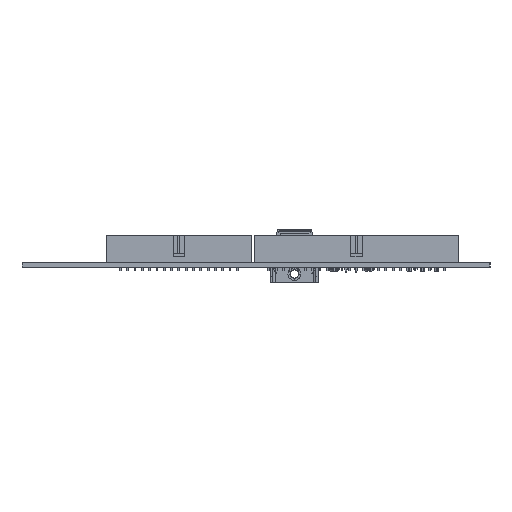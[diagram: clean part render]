
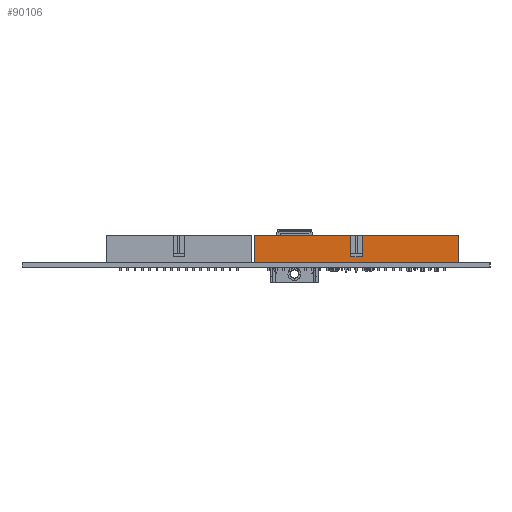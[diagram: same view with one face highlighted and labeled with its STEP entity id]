
A CAD part, left-side view. The second image highlights one B-rep face of the part: STEP entity #90106.
In plain terms, the highlighted planar face has unit normal (-1, 0, 0).
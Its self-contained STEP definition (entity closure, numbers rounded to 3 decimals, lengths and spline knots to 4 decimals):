
#11065=DIRECTION('',(0.,-1.,0.));
#11066=VECTOR('',#11065,2.79);
#11067=CARTESIAN_POINT('',(-2.82,0.02,0.062));
#11068=LINE('',#11067,#11066);
#21872=DIRECTION('',(0.,0.,1.));
#21873=VECTOR('',#21872,0.37);
#21874=CARTESIAN_POINT('',(-2.82,-2.77,0.062));
#21875=LINE('',#21874,#21873);
#21876=DIRECTION('',(0.,0.,1.));
#21877=VECTOR('',#21876,0.37);
#21878=CARTESIAN_POINT('',(-2.82,0.02,0.062));
#21879=LINE('',#21878,#21877);
#21880=DIRECTION('',(0.,0.,-1.));
#21881=VECTOR('',#21880,0.29);
#21882=CARTESIAN_POINT('',(-2.82,-1.295,0.432));
#21883=LINE('',#21882,#21881);
#21884=DIRECTION('',(0.,-1.,0.));
#21885=VECTOR('',#21884,0.16);
#21886=CARTESIAN_POINT('',(-2.82,-1.295,0.142));
#21887=LINE('',#21886,#21885);
#21888=DIRECTION('',(0.,0.,-1.));
#21889=VECTOR('',#21888,0.29);
#21890=CARTESIAN_POINT('',(-2.82,-1.455,0.432));
#21891=LINE('',#21890,#21889);
#21904=DIRECTION('',(0.,-1.,0.));
#21905=VECTOR('',#21904,1.315);
#21906=CARTESIAN_POINT('',(-2.82,0.02,0.432));
#21907=LINE('',#21906,#21905);
#21920=DIRECTION('',(0.,-1.,0.));
#21921=VECTOR('',#21920,1.315);
#21922=CARTESIAN_POINT('',(-2.82,-1.455,0.432));
#21923=LINE('',#21922,#21921);
#54601=CARTESIAN_POINT('',(-2.82,-2.77,0.432));
#54603=VERTEX_POINT('',#54601);
#54607=CARTESIAN_POINT('',(-2.82,0.02,0.432));
#54608=VERTEX_POINT('',#54607);
#54629=CARTESIAN_POINT('',(-2.82,-1.295,0.432));
#54631=VERTEX_POINT('',#54629);
#54633=CARTESIAN_POINT('',(-2.82,-1.455,0.432));
#54635=VERTEX_POINT('',#54633);
#54637=CARTESIAN_POINT('',(-2.82,-1.295,0.142));
#54638=VERTEX_POINT('',#54637);
#54639=CARTESIAN_POINT('',(-2.82,-1.455,0.142));
#54640=VERTEX_POINT('',#54639);
#57049=CARTESIAN_POINT('',(-2.82,-2.77,0.062));
#57051=VERTEX_POINT('',#57049);
#57055=CARTESIAN_POINT('',(-2.82,0.02,0.062));
#57056=VERTEX_POINT('',#57055);
#90085=CARTESIAN_POINT('',(-2.82,0.02,0.062));
#90086=DIRECTION('',(-1.,0.,0.));
#90087=DIRECTION('',(0.,-1.,0.));
#90088=AXIS2_PLACEMENT_3D('',#90085,#90086,#90087);
#90089=PLANE('',#90088);
#90090=ORIENTED_EDGE('',*,*,#72672,.F.);
#90092=ORIENTED_EDGE('',*,*,#90091,.T.);
#90094=ORIENTED_EDGE('',*,*,#90093,.T.);
#90096=ORIENTED_EDGE('',*,*,#90095,.T.);
#90098=ORIENTED_EDGE('',*,*,#90097,.T.);
#90100=ORIENTED_EDGE('',*,*,#90099,.F.);
#90102=ORIENTED_EDGE('',*,*,#90101,.T.);
#90103=ORIENTED_EDGE('',*,*,#90076,.F.);
#90104=EDGE_LOOP('',(#90090,#90092,#90094,#90096,#90098,#90100,#90102,#90103));
#90105=FACE_OUTER_BOUND('',#90104,.F.);
#90106=ADVANCED_FACE('',(#90105),#90089,.T.);
#72672=EDGE_CURVE('',#57056,#57051,#11068,.T.);
#90076=EDGE_CURVE('',#57051,#54603,#21875,.T.);
#90091=EDGE_CURVE('',#57056,#54608,#21879,.T.);
#90093=EDGE_CURVE('',#54608,#54631,#21907,.T.);
#90095=EDGE_CURVE('',#54631,#54638,#21883,.T.);
#90097=EDGE_CURVE('',#54638,#54640,#21887,.T.);
#90099=EDGE_CURVE('',#54635,#54640,#21891,.T.);
#90101=EDGE_CURVE('',#54635,#54603,#21923,.T.);
